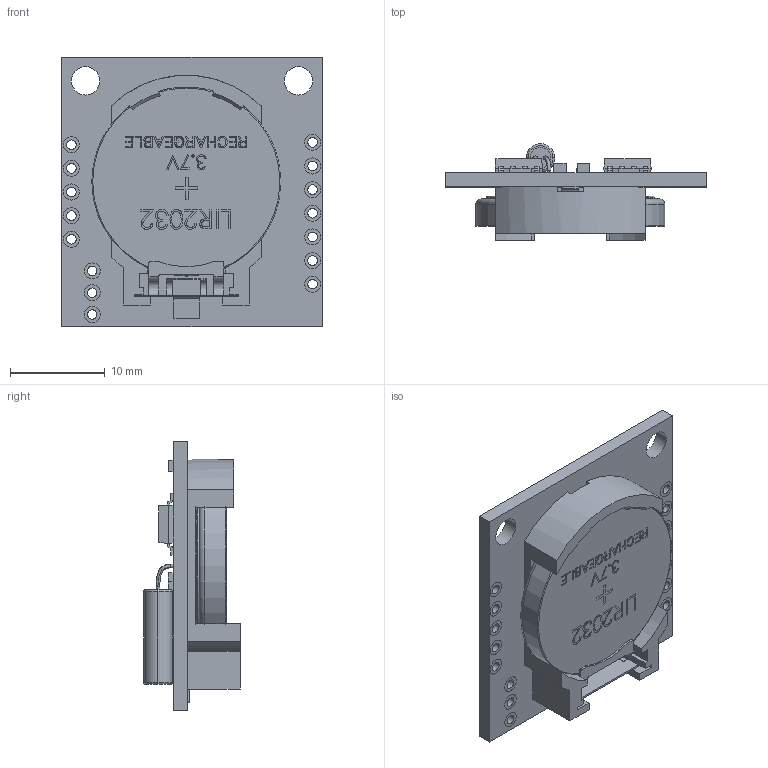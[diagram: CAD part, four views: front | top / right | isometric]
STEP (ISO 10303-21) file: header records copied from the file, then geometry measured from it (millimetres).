
FILE_DESCRIPTION (( 'STEP AP214' ), '1' );
FILE_NAME ('HW-111_RTCmodule_DS1307.STEP', '2021-07-29T15:35:56', ( '' ), ( '' ), 'SwSTEP 2.0', 'SolidWorks 2017', '' );
FILE_SCHEMA (( 'AUTOMOTIVE_DESIGN' ));
Length unit declared in the file: millimetre
Products named in the file (12): TerminalPlus; LIR2032BatteryHolderAssy; IC_DS1307Z_1901GM_153AA; HW-111_RTCmodule_DS1307; Oscillator; HW-111_MainBoad; チップコンデンサ; D1daiord; LIR2032_Battery; セラミックコンデンサs; TerminalMinus; Battery Holder_LIR2032
Assembly tree (19 placements, depth 3):
  HW-111_RTCmodule_DS1307
    HW-111_MainBoad
    IC_DS1307Z_1901GM_153AA  x2
    セラミックコンデンサs  x2
    チップコンデンサ  x7
    Oscillator
    LIR2032BatteryHolderAssy
      Battery Holder_LIR2032
      TerminalPlus
      TerminalMinus
      LIR2032_Battery
    D1daiord
Bounding box: 27.5 x 10.2 x 28.5 mm (x, y, z)
Volume: 2736.4 mm3; surface area: 4380.4 mm2
Topology: 19 solids, 19 shells, 2026 faces, 5441 edges, 3584 vertices
Faces by surface type: plane 1104, bspline 629, cylinder 279, torus 12, cone 2
Entity records: 94221 total; most frequent: CARTESIAN_POINT 36747, ORIENTED_EDGE 9858, DIRECTION 6669, EDGE_CURVE 4929, VERTEX_POINT 3244, VECTOR 3145, LINE 3145, EDGE_LOOP 2021
